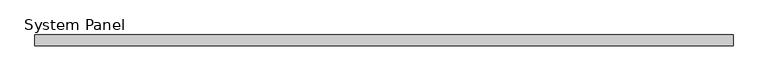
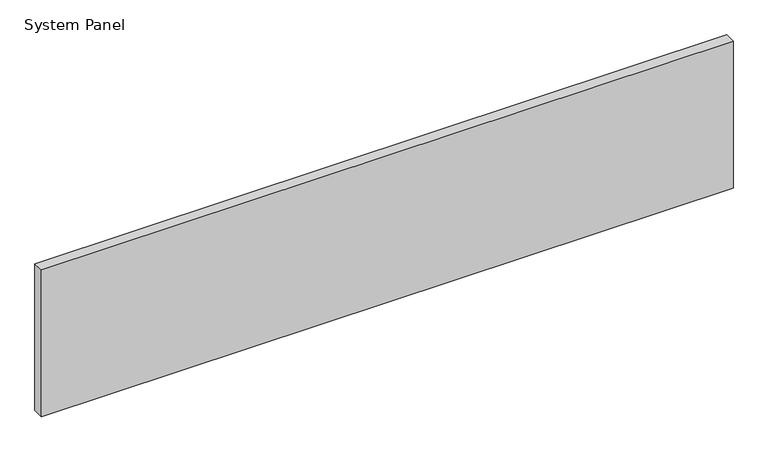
"""IFC4 building model written with IfcOpenShell, lengths in millimetres: plate geometry, System Panel : Glazed - ACMP (AL-1)."""

from ifc_helpers import new_model, si_unit, origin, origin_with_axes, place, context, project, spatial, polyline, outline, extrude, source, transform, mapped, element, save


def system_panel_88ac3429(model_context):
    return source(origin(), model_context, "Body", "SweptSolid", [
        extrude(outline(polyline([(806.45, -25.4), (-806.45, -25.4), (-806.45, 0.0), (806.45, 0.0), (806.45, -25.4)])), origin_with_axes(), (0.0, 0.0, 1.0), 361.95),
    ])


if __name__ == "__main__":
    model = new_model("IFC4")
    model_context = context("Model", 3, world=origin())
    ifc_project = project(units=[si_unit("LENGTHUNIT", "METRE", prefix="MILLI")], contexts=[model_context])
    site = spatial("IfcSite", under=ifc_project)
    building = spatial("IfcBuilding", under=site)
    placement = place(None, origin())
    system_panel_shape = system_panel_88ac3429(model_context)
    element("IfcPlate", 1, ObjectType="System Panel : Glazed - ACMP (AL-1)", at=placement, inside=building, context=model_context, shape_type="MappedRepresentation", body=[
        mapped(system_panel_shape, transform((0.0, 0.0, 0.0), x_axis=(1.0, 0.0, 0.0), y_axis=(0.0, 1.0, 0.0), z_axis=(0.0, 0.0, 1.0))),
    ])
    save(model, "model.ifc")
